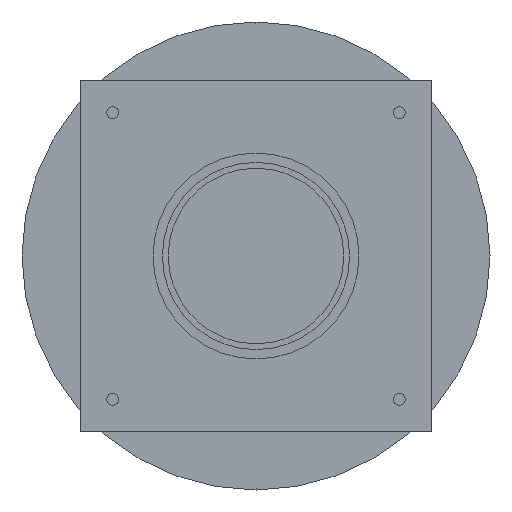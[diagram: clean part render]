
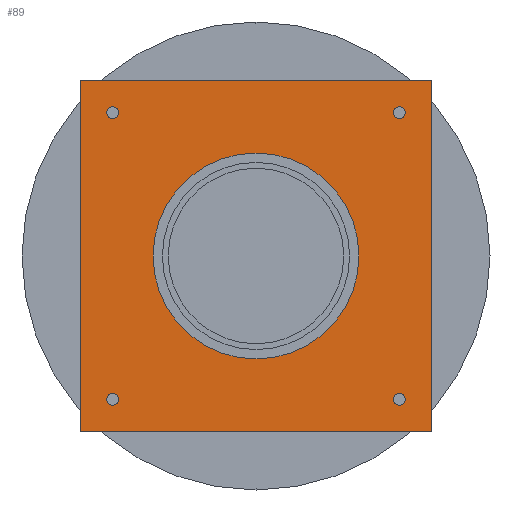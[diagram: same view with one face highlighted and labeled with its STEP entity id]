
A CAD part, front view. The second image highlights one B-rep face of the part: STEP entity #89.
In plain terms, the highlighted planar face has unit normal (0, -1, 0).
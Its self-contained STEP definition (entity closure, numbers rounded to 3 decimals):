
#89=ADVANCED_FACE('',(#187,#188,#189,#190,#191,#192),#193,.F.);
#187=FACE_OUTER_BOUND('',#298,.T.);
#188=FACE_BOUND('',#299,.T.);
#189=FACE_BOUND('',#300,.T.);
#190=FACE_BOUND('',#301,.T.);
#191=FACE_BOUND('',#302,.T.);
#192=FACE_BOUND('',#303,.T.);
#193=PLANE('',#304);
#298=EDGE_LOOP('',(#613,#614,#615,#616));
#299=EDGE_LOOP('',(#617,#618));
#300=EDGE_LOOP('',(#619,#620));
#301=EDGE_LOOP('',(#621,#622));
#302=EDGE_LOOP('',(#623,#624));
#303=EDGE_LOOP('',(#625,#626));
#304=AXIS2_PLACEMENT_3D('',#627,#628,#629);
#613=ORIENTED_EDGE('',*,*,#759,.T.);
#614=ORIENTED_EDGE('',*,*,#756,.F.);
#615=ORIENTED_EDGE('',*,*,#760,.F.);
#616=ORIENTED_EDGE('',*,*,#754,.F.);
#617=ORIENTED_EDGE('',*,*,#713,.T.);
#618=ORIENTED_EDGE('',*,*,#729,.T.);
#619=ORIENTED_EDGE('',*,*,#743,.T.);
#620=ORIENTED_EDGE('',*,*,#682,.T.);
#621=ORIENTED_EDGE('',*,*,#745,.T.);
#622=ORIENTED_EDGE('',*,*,#678,.T.);
#623=ORIENTED_EDGE('',*,*,#747,.T.);
#624=ORIENTED_EDGE('',*,*,#674,.T.);
#625=ORIENTED_EDGE('',*,*,#749,.T.);
#626=ORIENTED_EDGE('',*,*,#670,.T.);
#627=CARTESIAN_POINT('',(0.0,0.0,0.0));
#628=DIRECTION('',(0.0,1.0,0.0));
#629=DIRECTION('',(1.0,0.0,-0.0));
#670=EDGE_CURVE('',#774,#778,#780,.T.);
#674=EDGE_CURVE('',#782,#786,#788,.T.);
#678=EDGE_CURVE('',#790,#794,#796,.T.);
#682=EDGE_CURVE('',#798,#802,#804,.T.);
#713=EDGE_CURVE('',#863,#860,#864,.T.);
#729=EDGE_CURVE('',#860,#863,#889,.T.);
#743=EDGE_CURVE('',#802,#798,#903,.T.);
#745=EDGE_CURVE('',#794,#790,#905,.T.);
#747=EDGE_CURVE('',#786,#782,#907,.T.);
#749=EDGE_CURVE('',#778,#774,#909,.T.);
#754=EDGE_CURVE('',#916,#911,#918,.T.);
#756=EDGE_CURVE('',#920,#922,#923,.T.);
#759=EDGE_CURVE('',#916,#922,#927,.T.);
#760=EDGE_CURVE('',#911,#920,#928,.T.);
#774=VERTEX_POINT('',#942);
#778=VERTEX_POINT('',#947);
#780=CIRCLE('',#950,5.0);
#782=VERTEX_POINT('',#952);
#786=VERTEX_POINT('',#957);
#788=CIRCLE('',#960,5.0);
#790=VERTEX_POINT('',#962);
#794=VERTEX_POINT('',#967);
#796=CIRCLE('',#970,5.0);
#798=VERTEX_POINT('',#972);
#802=VERTEX_POINT('',#977);
#804=CIRCLE('',#980,5.0);
#860=VERTEX_POINT('',#1048);
#863=VERTEX_POINT('',#1052);
#864=CIRCLE('',#1053,88.0);
#889=CIRCLE('',#1083,88.0);
#903=CIRCLE('',#1097,5.0);
#905=CIRCLE('',#1099,5.0);
#907=CIRCLE('',#1101,5.0);
#909=CIRCLE('',#1103,5.0);
#911=VERTEX_POINT('',#1105);
#916=VERTEX_POINT('',#1112);
#918=LINE('',#1115,#1116);
#920=VERTEX_POINT('',#1118);
#922=VERTEX_POINT('',#1121);
#923=LINE('',#1122,#1123);
#927=LINE('',#1129,#1130);
#928=LINE('',#1131,#1132);
#942=CARTESIAN_POINT('',(-117.5,0.0,-122.5));
#947=CARTESIAN_POINT('',(-127.5,0.0,-122.5));
#950=AXIS2_PLACEMENT_3D('',#1160,#1161,#1162);
#952=CARTESIAN_POINT('',(127.5,0.0,-122.5));
#957=CARTESIAN_POINT('',(117.5,0.0,-122.5));
#960=AXIS2_PLACEMENT_3D('',#1168,#1169,#1170);
#962=CARTESIAN_POINT('',(-117.5,0.0,122.5));
#967=CARTESIAN_POINT('',(-127.5,0.0,122.5));
#970=AXIS2_PLACEMENT_3D('',#1176,#1177,#1178);
#972=CARTESIAN_POINT('',(127.5,0.0,122.5));
#977=CARTESIAN_POINT('',(117.5,0.0,122.5));
#980=AXIS2_PLACEMENT_3D('',#1184,#1185,#1186);
#1048=CARTESIAN_POINT('',(88.0,0.0,0.));
#1052=CARTESIAN_POINT('',(-88.0,0.0,0.));
#1053=AXIS2_PLACEMENT_3D('',#1251,#1252,#1253);
#1083=AXIS2_PLACEMENT_3D('',#1289,#1290,#1291);
#1097=AXIS2_PLACEMENT_3D('',#1331,#1332,#1333);
#1099=AXIS2_PLACEMENT_3D('',#1337,#1338,#1339);
#1101=AXIS2_PLACEMENT_3D('',#1343,#1344,#1345);
#1103=AXIS2_PLACEMENT_3D('',#1349,#1350,#1351);
#1105=CARTESIAN_POINT('',(150.0,0.0,150.0));
#1112=CARTESIAN_POINT('',(-150.0,0.0,150.0));
#1115=CARTESIAN_POINT('',(0.0,0.0,150.0));
#1116=VECTOR('',#1358,1.0);
#1118=CARTESIAN_POINT('',(150.0,0.0,-150.0));
#1121=CARTESIAN_POINT('',(-150.0,0.0,-150.0));
#1122=CARTESIAN_POINT('',(0.0,0.0,-150.0));
#1123=VECTOR('',#1360,1.0);
#1129=CARTESIAN_POINT('',(-150.0,0.0,0.0));
#1130=VECTOR('',#1363,1.0);
#1131=CARTESIAN_POINT('',(150.0,0.0,0.0));
#1132=VECTOR('',#1364,1.0);
#1160=CARTESIAN_POINT('',(-122.5,0.0,-122.5));
#1161=DIRECTION('',(-0.0,1.0,0.0));
#1162=DIRECTION('',(1.0,0.0,0.0));
#1168=CARTESIAN_POINT('',(122.5,0.0,-122.5));
#1169=DIRECTION('',(-0.0,1.0,0.0));
#1170=DIRECTION('',(1.0,0.0,0.0));
#1176=CARTESIAN_POINT('',(-122.5,0.0,122.5));
#1177=DIRECTION('',(-0.0,1.0,0.0));
#1178=DIRECTION('',(1.0,0.0,0.0));
#1184=CARTESIAN_POINT('',(122.5,0.0,122.5));
#1185=DIRECTION('',(-0.0,1.0,0.0));
#1186=DIRECTION('',(1.0,0.0,0.0));
#1251=CARTESIAN_POINT('',(0.0,0.0,0.0));
#1252=DIRECTION('',(-0.0,1.0,0.0));
#1253=DIRECTION('',(1.0,0.0,0.0));
#1289=CARTESIAN_POINT('',(0.0,0.0,0.0));
#1290=DIRECTION('',(-0.0,1.0,0.0));
#1291=DIRECTION('',(1.0,0.0,0.0));
#1331=CARTESIAN_POINT('',(122.5,0.0,122.5));
#1332=DIRECTION('',(-0.0,1.0,0.0));
#1333=DIRECTION('',(1.0,0.0,0.0));
#1337=CARTESIAN_POINT('',(-122.5,0.0,122.5));
#1338=DIRECTION('',(-0.0,1.0,0.0));
#1339=DIRECTION('',(1.0,0.0,0.0));
#1343=CARTESIAN_POINT('',(122.5,0.0,-122.5));
#1344=DIRECTION('',(-0.0,1.0,0.0));
#1345=DIRECTION('',(1.0,0.0,0.0));
#1349=CARTESIAN_POINT('',(-122.5,0.0,-122.5));
#1350=DIRECTION('',(-0.0,1.0,0.0));
#1351=DIRECTION('',(1.0,0.0,0.0));
#1358=DIRECTION('',(1.0,0.0,0.0));
#1360=DIRECTION('',(-1.0,0.0,0.0));
#1363=DIRECTION('',(0.0,0.0,-1.0));
#1364=DIRECTION('',(0.0,0.0,-1.0));
